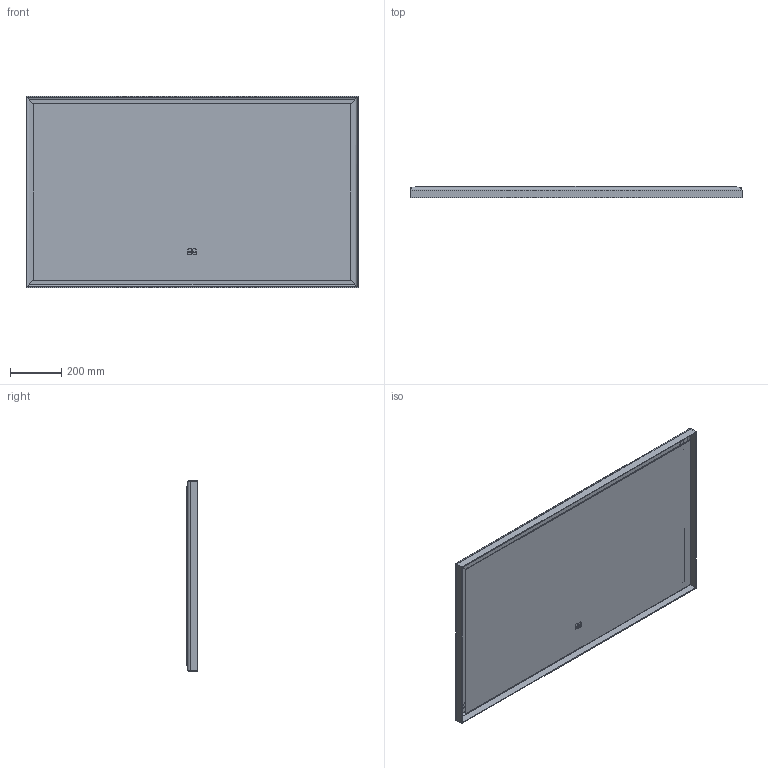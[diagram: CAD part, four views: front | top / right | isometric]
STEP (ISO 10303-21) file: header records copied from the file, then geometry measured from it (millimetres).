
FILE_DESCRIPTION(/* description */ (''),/* implementation_level */ '2;1');
FILE_NAME(/* name */ 'K:\ACAD\PERSPECT\Freisteller\V&B\Subway 3.0\A46313YY.stp',/* time_stamp */ '2020-07-28T15:25:53+02:00',/* author */ ('StegeR'),/* organization */ (''),/* preprocessor_version */ 'ST-DEVELOPER v16.1',/* originating_system */ 'Autodesk Inventor 2016',/* authorisation */ '');
FILE_SCHEMA (('AUTOMOTIVE_DESIGN { 1 0 10303 214 3 1 1 }'));
Length unit declared in the file: millimetre
Products named in the file (1): A46313YY
Bounding box: 1300 x 45.5 x 750 mm (x, y, z)
Volume: 5998773.4 mm3; surface area: 3322753.6 mm2
Topology: 35 solids, 35 shells, 802 faces, 2041 edges, 1358 vertices
Faces by surface type: plane 594, cylinder 200, bspline 8
Full cylindrical faces by diameter (mm): 0.488 x2, 4.4 x12, 5.8 x24
Entity records: 24117 total; most frequent: CARTESIAN_POINT 4308, ORIENTED_EDGE 4006, DIRECTION 4005, EDGE_CURVE 2003, LINE 1575, VECTOR 1575, VERTEX_POINT 1358, AXIS2_PLACEMENT_3D 1215
